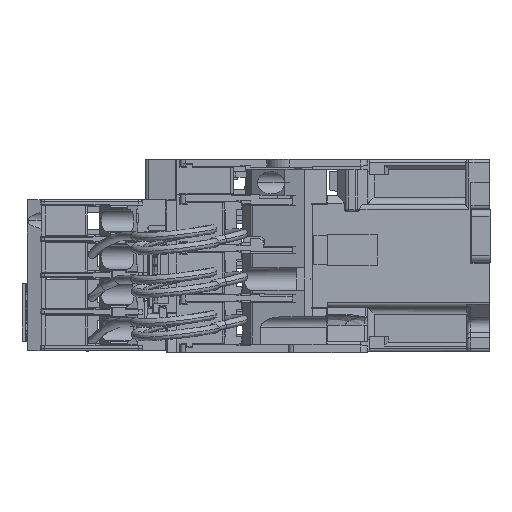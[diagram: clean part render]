
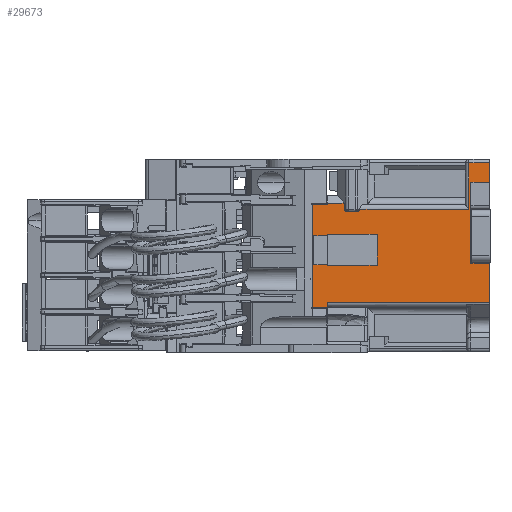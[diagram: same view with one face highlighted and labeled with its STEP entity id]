
A CAD part, left-side view. The second image highlights one B-rep face of the part: STEP entity #29673.
In plain terms, the highlighted planar face has unit normal (-1, 0, 0).
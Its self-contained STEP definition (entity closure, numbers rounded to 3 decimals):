
#323=FACE_BOUND('',#39858,.T.);
#324=FACE_BOUND('',#39859,.T.);
#859=PLANE('',#97520);
#6170=LINE('',#128396,#17807);
#6210=LINE('',#128477,#17847);
#6267=LINE('',#128638,#17904);
#6378=LINE('',#128894,#18015);
#7096=LINE('',#130706,#18733);
#7097=LINE('',#130713,#18734);
#7098=LINE('',#130715,#18735);
#7099=LINE('',#130718,#18736);
#7100=LINE('',#130720,#18737);
#7101=LINE('',#130722,#18738);
#7102=LINE('',#130724,#18739);
#7103=LINE('',#130726,#18740);
#7104=LINE('',#130728,#18741);
#7105=LINE('',#130730,#18742);
#7106=LINE('',#130731,#18743);
#7107=LINE('',#130732,#18744);
#7108=LINE('',#130741,#18745);
#7109=LINE('',#130748,#18746);
#7110=LINE('',#130750,#18747);
#7111=LINE('',#130752,#18748);
#7112=LINE('',#130754,#18749);
#7113=LINE('',#130756,#18750);
#7114=LINE('',#130758,#18751);
#7115=LINE('',#130760,#18752);
#7116=LINE('',#130762,#18753);
#17807=VECTOR('',#103688,1.);
#17847=VECTOR('',#103734,1.);
#17904=VECTOR('',#103833,1.);
#18015=VECTOR('',#104020,1.);
#18733=VECTOR('',#105332,1.);
#18734=VECTOR('',#105343,1.);
#18735=VECTOR('',#105346,1.);
#18736=VECTOR('',#105347,1.);
#18737=VECTOR('',#105348,1.);
#18738=VECTOR('',#105349,1.);
#18739=VECTOR('',#105350,1.);
#18740=VECTOR('',#105351,1.);
#18741=VECTOR('',#105352,1.);
#18742=VECTOR('',#105353,1.);
#18743=VECTOR('',#105354,1.);
#18744=VECTOR('',#105355,1.);
#18745=VECTOR('',#105356,1.);
#18746=VECTOR('',#105357,1.);
#18747=VECTOR('',#105358,1.);
#18748=VECTOR('',#105359,1.);
#18749=VECTOR('',#105360,1.);
#18750=VECTOR('',#105361,1.);
#18751=VECTOR('',#105362,1.);
#18752=VECTOR('',#105363,1.);
#18753=VECTOR('',#105364,1.);
#29673=ADVANCED_FACE('',(#323,#324),#859,.T.);
#39858=EDGE_LOOP('',(#46428,#46429,#46430,#46431,#46432,#46433,#46434,#46435));
#39859=EDGE_LOOP('',(#46436,#46437,#46438,#46439,#46440,#46441,#46442,#46443,
#46444,#46445,#46446,#46447,#46448,#46449,#46450,#46451,#46452,#46453,#46454));
#46428=ORIENTED_EDGE('',*,*,#83279,.T.);
#46429=ORIENTED_EDGE('',*,*,#83280,.F.);
#46430=ORIENTED_EDGE('',*,*,#83281,.F.);
#46431=ORIENTED_EDGE('',*,*,#83282,.T.);
#46432=ORIENTED_EDGE('',*,*,#83283,.T.);
#46433=ORIENTED_EDGE('',*,*,#83284,.F.);
#46434=ORIENTED_EDGE('',*,*,#83285,.F.);
#46435=ORIENTED_EDGE('',*,*,#83286,.T.);
#46436=ORIENTED_EDGE('',*,*,#82245,.T.);
#46437=ORIENTED_EDGE('',*,*,#82315,.T.);
#46438=ORIENTED_EDGE('',*,*,#82205,.F.);
#46439=ORIENTED_EDGE('',*,*,#83287,.T.);
#46440=ORIENTED_EDGE('',*,*,#82443,.T.);
#46441=ORIENTED_EDGE('',*,*,#83278,.T.);
#46442=ORIENTED_EDGE('',*,*,#83274,.T.);
#46443=ORIENTED_EDGE('',*,*,#83288,.T.);
#46444=ORIENTED_EDGE('',*,*,#83289,.T.);
#46445=ORIENTED_EDGE('',*,*,#83290,.T.);
#46446=ORIENTED_EDGE('',*,*,#83291,.T.);
#46447=ORIENTED_EDGE('',*,*,#83292,.F.);
#46448=ORIENTED_EDGE('',*,*,#83293,.F.);
#46449=ORIENTED_EDGE('',*,*,#83294,.F.);
#46450=ORIENTED_EDGE('',*,*,#83295,.F.);
#46451=ORIENTED_EDGE('',*,*,#83296,.F.);
#46452=ORIENTED_EDGE('',*,*,#83297,.F.);
#46453=ORIENTED_EDGE('',*,*,#83298,.F.);
#46454=ORIENTED_EDGE('',*,*,#83299,.T.);
#72989=VERTEX_POINT('',#128395);
#72990=VERTEX_POINT('',#128397);
#73027=VERTEX_POINT('',#128476);
#73028=VERTEX_POINT('',#128478);
#73177=VERTEX_POINT('',#128893);
#73178=VERTEX_POINT('',#128895);
#73748=VERTEX_POINT('',#130705);
#73749=VERTEX_POINT('',#130707);
#73750=VERTEX_POINT('',#130716);
#73751=VERTEX_POINT('',#130717);
#73752=VERTEX_POINT('',#130719);
#73753=VERTEX_POINT('',#130721);
#73754=VERTEX_POINT('',#130723);
#73755=VERTEX_POINT('',#130725);
#73756=VERTEX_POINT('',#130727);
#73757=VERTEX_POINT('',#130729);
#73758=VERTEX_POINT('',#130733);
#73759=VERTEX_POINT('',#130740);
#73760=VERTEX_POINT('',#130742);
#73761=VERTEX_POINT('',#130747);
#73762=VERTEX_POINT('',#130749);
#73763=VERTEX_POINT('',#130751);
#73764=VERTEX_POINT('',#130753);
#73765=VERTEX_POINT('',#130755);
#73766=VERTEX_POINT('',#130757);
#73767=VERTEX_POINT('',#130759);
#73768=VERTEX_POINT('',#130761);
#82205=EDGE_CURVE('',#72989,#72990,#6170,.T.);
#82245=EDGE_CURVE('',#73028,#73027,#6210,.T.);
#82315=EDGE_CURVE('',#73027,#72990,#6267,.T.);
#82443=EDGE_CURVE('',#73178,#73177,#6378,.T.);
#83274=EDGE_CURVE('',#73749,#73748,#7096,.T.);
#83278=EDGE_CURVE('',#73177,#73749,#7097,.T.);
#83279=EDGE_CURVE('',#73750,#73751,#7098,.T.);
#83280=EDGE_CURVE('',#73752,#73751,#7099,.T.);
#83281=EDGE_CURVE('',#73753,#73752,#7100,.T.);
#83282=EDGE_CURVE('',#73753,#73754,#7101,.T.);
#83283=EDGE_CURVE('',#73754,#73755,#7102,.T.);
#83284=EDGE_CURVE('',#73756,#73755,#7103,.T.);
#83285=EDGE_CURVE('',#73757,#73756,#7104,.T.);
#83286=EDGE_CURVE('',#73757,#73750,#7105,.T.);
#83287=EDGE_CURVE('',#72989,#73178,#7106,.T.);
#83288=EDGE_CURVE('',#73748,#73758,#7107,.T.);
#83289=EDGE_CURVE('',#73758,#73759,#96405,.T.);
#83290=EDGE_CURVE('',#73759,#73760,#7108,.T.);
#83291=EDGE_CURVE('',#73760,#73761,#96406,.T.);
#83292=EDGE_CURVE('',#73762,#73761,#7109,.T.);
#83293=EDGE_CURVE('',#73763,#73762,#7110,.T.);
#83294=EDGE_CURVE('',#73764,#73763,#7111,.T.);
#83295=EDGE_CURVE('',#73765,#73764,#7112,.T.);
#83296=EDGE_CURVE('',#73766,#73765,#7113,.T.);
#83297=EDGE_CURVE('',#73767,#73766,#7114,.T.);
#83298=EDGE_CURVE('',#73768,#73767,#7115,.T.);
#83299=EDGE_CURVE('',#73768,#73028,#7116,.T.);
#96405=B_SPLINE_CURVE_WITH_KNOTS('',3,(#130734,#130735,#130736,#130737,
#130738,#130739),.UNSPECIFIED.,.F.,.F.,(4,2,4),(0.,0.5,1.),
 .UNSPECIFIED.);
#96406=B_SPLINE_CURVE_WITH_KNOTS('',3,(#130743,#130744,#130745,#130746),
 .UNSPECIFIED.,.F.,.F.,(4,4),(0.,1.),.UNSPECIFIED.);
#97520=AXIS2_PLACEMENT_3D('',#130763,#105365,#105366);
#103688=DIRECTION('',(0.,0.,-1.));
#103734=DIRECTION('',(0.,0.,1.));
#103833=DIRECTION('',(0.,1.,0.));
#104020=DIRECTION('',(0.,0.,1.));
#105332=DIRECTION('',(0.,0.,-1.));
#105343=DIRECTION('',(0.,1.,0.));
#105346=DIRECTION('',(0.,0.,-1.));
#105347=DIRECTION('',(0.,-1.,0.));
#105348=DIRECTION('',(0.,0.,-1.));
#105349=DIRECTION('',(0.,1.,0.));
#105350=DIRECTION('',(0.,0.,1.));
#105351=DIRECTION('',(0.,1.,0.));
#105352=DIRECTION('',(0.,0.,-1.));
#105353=DIRECTION('',(0.,-1.,0.));
#105354=DIRECTION('',(0.,-1.,0.));
#105355=DIRECTION('',(0.,1.,0.));
#105356=DIRECTION('',(0.,1.,0.));
#105357=DIRECTION('',(0.,0.,-1.));
#105358=DIRECTION('',(0.,-1.,0.));
#105359=DIRECTION('',(0.,0.,1.));
#105360=DIRECTION('',(0.,-1.,0.));
#105361=DIRECTION('',(0.,0.,1.));
#105362=DIRECTION('',(0.,1.,0.));
#105363=DIRECTION('',(0.,0.,-1.));
#105364=DIRECTION('',(0.,-1.,0.));
#105365=DIRECTION('',(-1.,0.,0.));
#105366=DIRECTION('',(0.,-1.,0.));
#128395=CARTESIAN_POINT('',(-40.,-18.2,21.4));
#128396=CARTESIAN_POINT('',(-40.,-18.2,21.4));
#128397=CARTESIAN_POINT('',(-40.,-18.2,-2.2));
#128476=CARTESIAN_POINT('',(-40.,-23.6,-2.2));
#128477=CARTESIAN_POINT('',(-40.,-23.6,-13.5));
#128478=CARTESIAN_POINT('',(-40.,-23.6,-13.5));
#128638=CARTESIAN_POINT('',(-40.,-23.6,-2.2));
#128893=CARTESIAN_POINT('',(-40.,-23.6,27.));
#128894=CARTESIAN_POINT('',(-40.,-23.6,21.4));
#128895=CARTESIAN_POINT('',(-40.,-23.6,21.4));
#130705=CARTESIAN_POINT('',(-40.,-17.6,13.5));
#130706=CARTESIAN_POINT('',(-40.,-17.6,27.));
#130707=CARTESIAN_POINT('',(-40.,-17.6,27.));
#130713=CARTESIAN_POINT('',(-40.,-23.6,27.));
#130715=CARTESIAN_POINT('',(-40.,9.1,6.2));
#130716=CARTESIAN_POINT('',(-40.,9.1,6.2));
#130717=CARTESIAN_POINT('',(-40.,9.1,-2.8));
#130718=CARTESIAN_POINT('',(-40.,23.6,-2.8));
#130719=CARTESIAN_POINT('',(-40.,23.6,-2.8));
#130720=CARTESIAN_POINT('',(-40.,23.6,-2.7));
#130721=CARTESIAN_POINT('',(-40.,23.6,-2.7));
#130722=CARTESIAN_POINT('',(-40.,23.6,-2.7));
#130723=CARTESIAN_POINT('',(-40.,27.5,-2.7));
#130724=CARTESIAN_POINT('',(-40.,27.5,-2.7));
#130725=CARTESIAN_POINT('',(-40.,27.5,5.8));
#130726=CARTESIAN_POINT('',(-40.,23.6,5.8));
#130727=CARTESIAN_POINT('',(-40.,23.6,5.8));
#130728=CARTESIAN_POINT('',(-40.,23.6,6.2));
#130729=CARTESIAN_POINT('',(-40.,23.6,6.2));
#130730=CARTESIAN_POINT('',(-40.,23.6,6.2));
#130731=CARTESIAN_POINT('',(-40.,-18.2,21.4));
#130732=CARTESIAN_POINT('',(-40.,-17.6,13.5));
#130733=CARTESIAN_POINT('',(-40.,14.1,13.5));
#130734=CARTESIAN_POINT('',(-40.,14.1,13.5));
#130735=CARTESIAN_POINT('',(-40.,14.1,13.327));
#130736=CARTESIAN_POINT('',(-40.,14.224,13.158));
#130737=CARTESIAN_POINT('',(-40.,14.535,12.952));
#130738=CARTESIAN_POINT('',(-40.,14.725,12.9));
#130739=CARTESIAN_POINT('',(-40.,14.949,12.9));
#130740=CARTESIAN_POINT('',(-40.,14.949,12.9));
#130741=CARTESIAN_POINT('',(-40.,14.949,12.9));
#130742=CARTESIAN_POINT('',(-40.,17.939,12.9));
#130743=CARTESIAN_POINT('',(-40.,17.939,12.9));
#130744=CARTESIAN_POINT('',(-40.,18.326,12.9));
#130745=CARTESIAN_POINT('',(-40.,18.713,13.137));
#130746=CARTESIAN_POINT('',(-40.,18.713,13.5));
#130747=CARTESIAN_POINT('',(-40.,18.713,13.5));
#130748=CARTESIAN_POINT('',(-40.,18.713,15.3));
#130749=CARTESIAN_POINT('',(-40.,18.713,15.3));
#130750=CARTESIAN_POINT('',(-40.,23.6,15.3));
#130751=CARTESIAN_POINT('',(-40.,23.6,15.3));
#130752=CARTESIAN_POINT('',(-40.,23.6,14.8));
#130753=CARTESIAN_POINT('',(-40.,23.6,14.8));
#130754=CARTESIAN_POINT('',(-40.,27.9,14.8));
#130755=CARTESIAN_POINT('',(-40.,27.9,14.8));
#130756=CARTESIAN_POINT('',(-40.,27.9,-15.));
#130757=CARTESIAN_POINT('',(-40.,27.9,-15.));
#130758=CARTESIAN_POINT('',(-40.,23.6,-15.));
#130759=CARTESIAN_POINT('',(-40.,23.6,-15.));
#130760=CARTESIAN_POINT('',(-40.,23.6,-13.5));
#130761=CARTESIAN_POINT('',(-40.,23.6,-13.5));
#130762=CARTESIAN_POINT('',(-40.,23.6,-13.5));
#130763=CARTESIAN_POINT('',(-40.,23.6,-28.));
